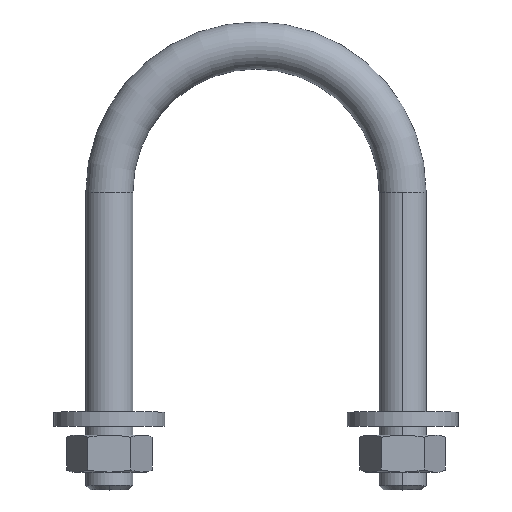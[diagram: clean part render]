
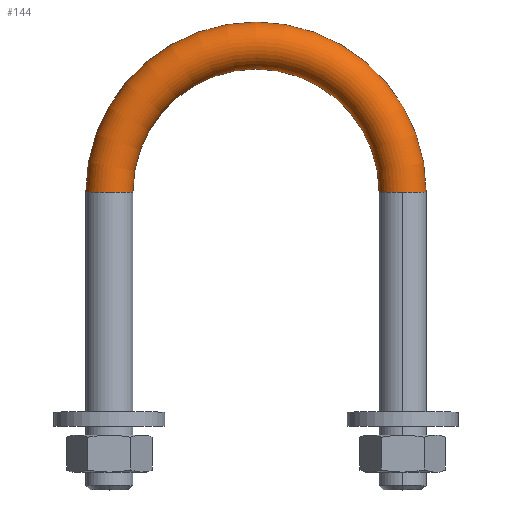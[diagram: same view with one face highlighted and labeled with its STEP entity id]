
A CAD part, top view. The second image highlights one B-rep face of the part: STEP entity #144.
In plain terms, the highlighted toroidal (fillet/blend) face has major radius 16.5 mm and minor radius 2.65 mm.
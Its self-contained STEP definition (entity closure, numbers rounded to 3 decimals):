
#22 = ORIENTED_EDGE ( 'NONE', *, *, #787, .F. ) ;
#101 = EDGE_CURVE ( 'NONE', #987, #455, #632, .T. ) ;
#112 = VERTEX_POINT ( 'NONE', #1083 ) ;
#121 = AXIS2_PLACEMENT_3D ( 'NONE', #122, #1281, #244 ) ;
#122 = CARTESIAN_POINT ( 'NONE',  ( 0., 0., 0. ) ) ;
#128 = DIRECTION ( 'NONE',  ( 0., -1., 0. ) ) ;
#144 = ADVANCED_FACE ( 'NONE', ( #1350 ), #419, .T. ) ;
#174 = CARTESIAN_POINT ( 'NONE',  ( 0., 0., 0. ) ) ;
#244 = DIRECTION ( 'NONE',  ( -1., 0., 0. ) ) ;
#299 = VERTEX_POINT ( 'NONE', #1179 ) ;
#315 = DIRECTION ( 'NONE',  ( 0., 0., 1. ) ) ;
#318 = AXIS2_PLACEMENT_3D ( 'NONE', #428, #543, #315 ) ;
#348 = CIRCLE ( 'NONE', #1057, 2.65 ) ;
#350 = CARTESIAN_POINT ( 'NONE',  ( 16.5, 0., 0. ) ) ;
#376 = CARTESIAN_POINT ( 'NONE',  ( 13.85, 0., 0. ) ) ;
#391 = EDGE_LOOP ( 'NONE', ( #22, #1103, #673, #1020, #985 ) ) ;
#416 = DIRECTION ( 'NONE',  ( 0., 0., -1. ) ) ;
#419 = TOROIDAL_SURFACE ( 'NONE', #754, 16.5, 2.65 ) ;
#428 = CARTESIAN_POINT ( 'NONE',  ( 16.5, 0., 0. ) ) ;
#455 = VERTEX_POINT ( 'NONE', #376 ) ;
#481 = CARTESIAN_POINT ( 'NONE',  ( -13.85, 0., 0. ) ) ;
#500 = AXIS2_PLACEMENT_3D ( 'NONE', #826, #416, #1074 ) ;
#543 = DIRECTION ( 'NONE',  ( 0., 1., 0. ) ) ;
#632 = CIRCLE ( 'NONE', #500, 13.85 ) ;
#673 = ORIENTED_EDGE ( 'NONE', *, *, #101, .T. ) ;
#676 = DIRECTION ( 'NONE',  ( 0., 0., -1. ) ) ;
#754 = AXIS2_PLACEMENT_3D ( 'NONE', #174, #676, #1026 ) ;
#780 = CIRCLE ( 'NONE', #318, 2.65 ) ;
#787 = EDGE_CURVE ( 'NONE', #299, #112, #977, .T. ) ;
#826 = CARTESIAN_POINT ( 'NONE',  ( 0., 0., 0. ) ) ;
#895 = CARTESIAN_POINT ( 'NONE',  ( -16.5, 0., 0. ) ) ;
#957 = EDGE_CURVE ( 'NONE', #987, #299, #348, .T. ) ;
#965 = EDGE_CURVE ( 'NONE', #1068, #112, #1262, .T. ) ;
#977 = CIRCLE ( 'NONE', #121, 19.15 ) ;
#985 = ORIENTED_EDGE ( 'NONE', *, *, #965, .T. ) ;
#986 = DIRECTION ( 'NONE',  ( 0., 0., 1. ) ) ;
#987 = VERTEX_POINT ( 'NONE', #481 ) ;
#1003 = DIRECTION ( 'NONE',  ( 0., 0., 1. ) ) ;
#1020 = ORIENTED_EDGE ( 'NONE', *, *, #1071, .T. ) ;
#1026 = DIRECTION ( 'NONE',  ( -1., 0., 0. ) ) ;
#1057 = AXIS2_PLACEMENT_3D ( 'NONE', #895, #128, #1003 ) ;
#1068 = VERTEX_POINT ( 'NONE', #1176 ) ;
#1071 = EDGE_CURVE ( 'NONE', #455, #1068, #780, .T. ) ;
#1074 = DIRECTION ( 'NONE',  ( -1., 0., 0. ) ) ;
#1083 = CARTESIAN_POINT ( 'NONE',  ( 19.15, 0., 0. ) ) ;
#1103 = ORIENTED_EDGE ( 'NONE', *, *, #957, .F. ) ;
#1115 = DIRECTION ( 'NONE',  ( 0., 1., 0. ) ) ;
#1176 = CARTESIAN_POINT ( 'NONE',  ( 16.5, 0., 2.65 ) ) ;
#1179 = CARTESIAN_POINT ( 'NONE',  ( -19.15, 0., 0. ) ) ;
#1262 = CIRCLE ( 'NONE', #1311, 2.65 ) ;
#1281 = DIRECTION ( 'NONE',  ( 0., 0., -1. ) ) ;
#1311 = AXIS2_PLACEMENT_3D ( 'NONE', #350, #1115, #986 ) ;
#1350 = FACE_OUTER_BOUND ( 'NONE', #391, .T. ) ;
